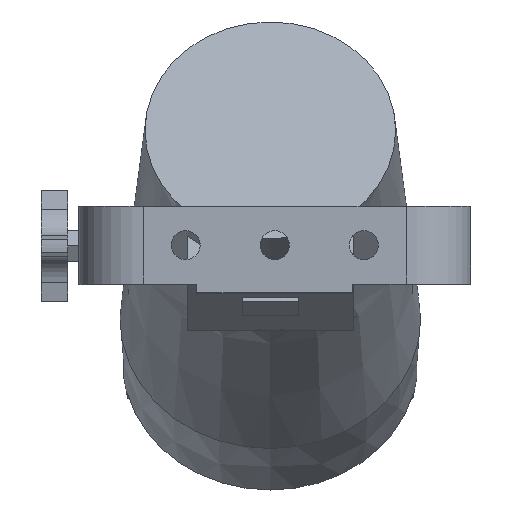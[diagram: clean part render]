
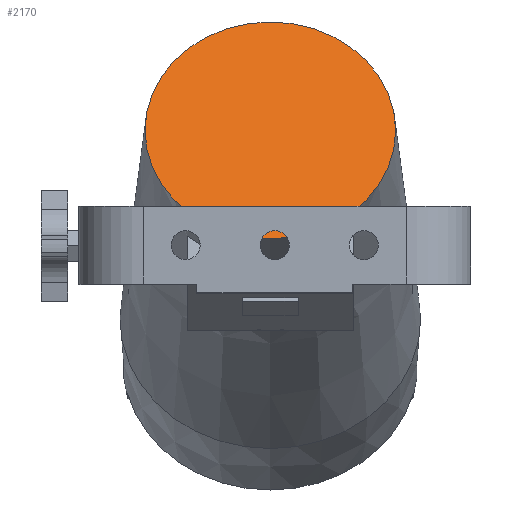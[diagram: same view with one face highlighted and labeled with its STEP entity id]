
A CAD part, top view. The second image highlights one B-rep face of the part: STEP entity #2170.
In plain terms, the highlighted planar face has unit normal (0, 0.5, 0.866) as drawn and (0, 0, 1) by its records, which use the part's own axes.
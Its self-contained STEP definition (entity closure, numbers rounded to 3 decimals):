
#619=FACE_OUTER_BOUND('',#748,.T.);
#748=EDGE_LOOP('',(#1981,#1982));
#815=CIRCLE('',#2343,56.292);
#816=CIRCLE('',#2344,56.292);
#992=VERTEX_POINT('',#3486);
#993=VERTEX_POINT('',#3488);
#1274=EDGE_CURVE('',#992,#993,#815,.T.);
#1275=EDGE_CURVE('',#993,#992,#816,.T.);
#1981=ORIENTED_EDGE('',*,*,#1275,.F.);
#1982=ORIENTED_EDGE('',*,*,#1274,.F.);
#2058=PLANE('',#2401);
#2170=ADVANCED_FACE('',(#619),#2058,.T.);
#2343=AXIS2_PLACEMENT_3D('',#3489,#2855,#2856);
#2344=AXIS2_PLACEMENT_3D('',#3490,#2857,#2858);
#2401=AXIS2_PLACEMENT_3D('',#3839,#3022,#3023);
#2855=DIRECTION('center_axis',(0.,0.,-1.));
#2856=DIRECTION('ref_axis',(1.,0.,0.));
#2857=DIRECTION('center_axis',(0.,0.,-1.));
#2858=DIRECTION('ref_axis',(1.,0.,0.));
#3022=DIRECTION('center_axis',(0.,0.,1.));
#3023=DIRECTION('ref_axis',(1.,0.,0.));
#3486=CARTESIAN_POINT('',(0.,-56.292,11.5));
#3488=CARTESIAN_POINT('',(0.,56.292,11.5));
#3489=CARTESIAN_POINT('Origin',(0.,0.,11.5));
#3490=CARTESIAN_POINT('Origin',(0.,0.,11.5));
#3839=CARTESIAN_POINT('Origin',(0.,56.292,11.5));
